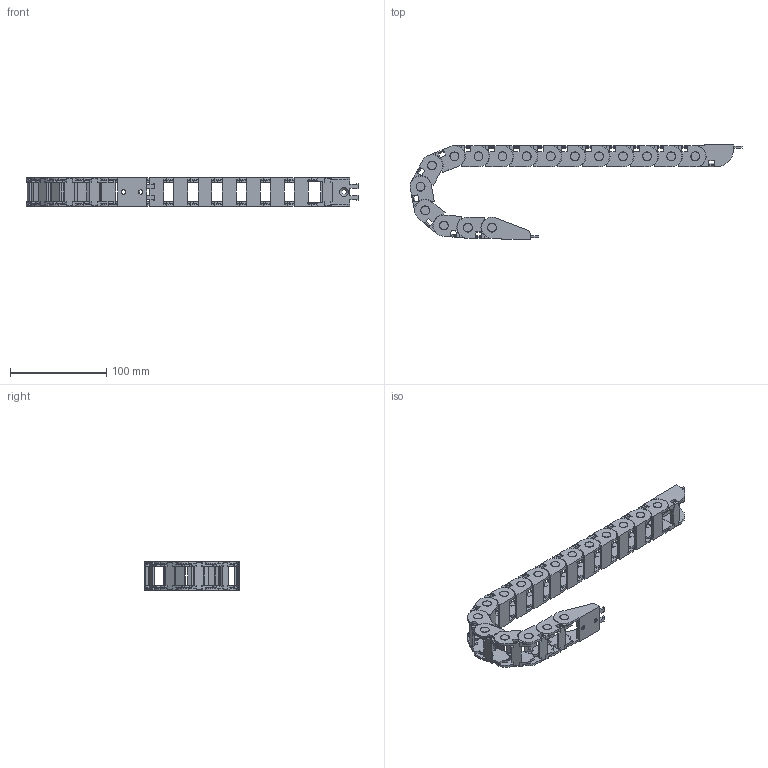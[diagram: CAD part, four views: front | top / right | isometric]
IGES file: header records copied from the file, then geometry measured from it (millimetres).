
Global section: file name: No Iges File Name specified; native system: Autodesk Inventor 2012; preprocessor: AutoDesk Inventor Iges Exporter R2012; author: cho; date: 20151020.004641; units: millimetre
Bounding box: 344.43 x 98 x 30.4 mm (x, y, z)
Volume: 102859.2 mm3; surface area: 96753.4 mm2
Topology: 35 solids, 35 shells, 1380 faces, 3804 edges, 2526 vertices
Faces by surface type: plane 1018, cylinder 238, revolution 124
Full cylindrical faces by diameter (mm): 9 x32
